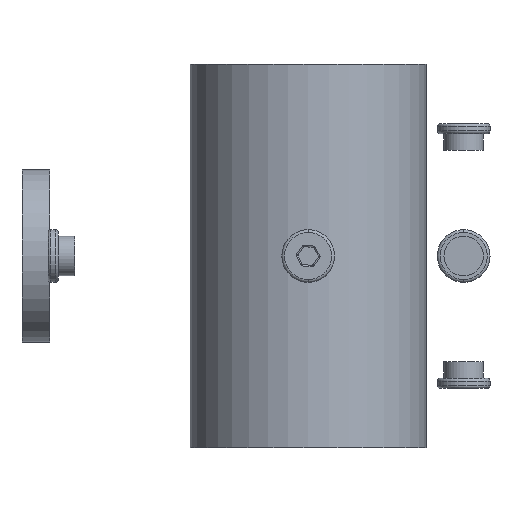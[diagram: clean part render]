
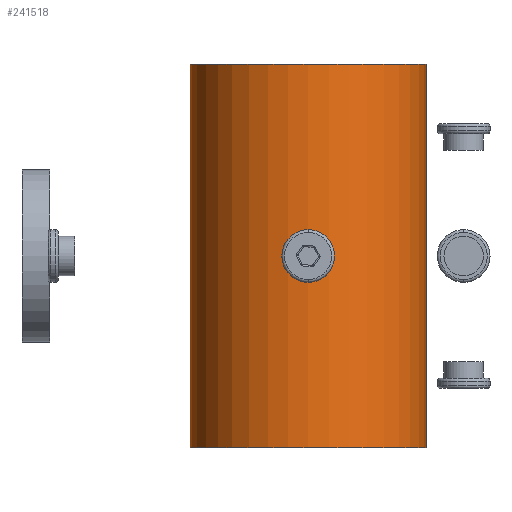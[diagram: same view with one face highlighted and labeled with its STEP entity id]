
A CAD part, front view. The second image highlights one B-rep face of the part: STEP entity #241518.
In plain terms, the highlighted cylindrical face has radius 42.5 mm (diameter 85 mm), a partial arc.
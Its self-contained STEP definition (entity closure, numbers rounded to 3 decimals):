
#237 = CARTESIAN_POINT ( 'NONE',  ( 0., 0., 134. ) ) ;
#1551 = VERTEX_POINT ( 'NONE', #163940 ) ;
#9943 = CARTESIAN_POINT ( 'NONE',  ( 0., 0., 134. ) ) ;
#12818 = AXIS2_PLACEMENT_3D ( 'NONE', #237, #262751, #238662 ) ;
#26665 = CIRCLE ( 'NONE', #158559, 42.5 ) ;
#30389 = CIRCLE ( 'NONE', #205525, 42.5 ) ;
#32508 = EDGE_CURVE ( 'NONE', #230307, #1551, #123352, .T. ) ;
#33992 = DIRECTION ( 'NONE',  ( -1., 0., 0. ) ) ;
#42615 = VERTEX_POINT ( 'NONE', #247376 ) ;
#51903 = CYLINDRICAL_SURFACE ( 'NONE', #12818, 42.5 ) ;
#52031 = EDGE_CURVE ( 'NONE', #42615, #230307, #30389, .T. ) ;
#52365 = CARTESIAN_POINT ( 'NONE',  ( 42.5, 0., -4. ) ) ;
#59479 = FACE_OUTER_BOUND ( 'NONE', #305693, .T. ) ;
#69296 = CARTESIAN_POINT ( 'NONE',  ( -42.5, 0., 134. ) ) ;
#92069 = CARTESIAN_POINT ( 'NONE',  ( 0., 0., -4. ) ) ;
#112758 = DIRECTION ( 'NONE',  ( 0., 0., -1. ) ) ;
#116140 = DIRECTION ( 'NONE',  ( -1., 0., 0. ) ) ;
#123352 = LINE ( 'NONE', #142508, #250564 ) ;
#141212 = VECTOR ( 'NONE', #112758, 1000. ) ;
#141677 = EDGE_CURVE ( 'NONE', #42615, #220670, #276028, .T. ) ;
#142508 = CARTESIAN_POINT ( 'NONE',  ( -42.5, 0., 134. ) ) ;
#158559 = AXIS2_PLACEMENT_3D ( 'NONE', #92069, #259306, #116140 ) ;
#163940 = CARTESIAN_POINT ( 'NONE',  ( -42.5, 0., -4. ) ) ;
#177283 = DIRECTION ( 'NONE',  ( 0., 0., -1. ) ) ;
#205525 = AXIS2_PLACEMENT_3D ( 'NONE', #9943, #177283, #33992 ) ;
#212499 = DIRECTION ( 'NONE',  ( 0., 0., -1. ) ) ;
#218206 = ORIENTED_EDGE ( 'NONE', *, *, #141677, .F. ) ;
#220670 = VERTEX_POINT ( 'NONE', #52365 ) ;
#222510 = ORIENTED_EDGE ( 'NONE', *, *, #32508, .T. ) ;
#225701 = ORIENTED_EDGE ( 'NONE', *, *, #237937, .F. ) ;
#230307 = VERTEX_POINT ( 'NONE', #69296 ) ;
#237937 = EDGE_CURVE ( 'NONE', #220670, #1551, #26665, .T. ) ;
#238662 = DIRECTION ( 'NONE',  ( -1., 0., 0. ) ) ;
#241518 = ADVANCED_FACE ( 'NONE', ( #59479 ), #51903, .T. ) ;
#247376 = CARTESIAN_POINT ( 'NONE',  ( 42.5, 0., 134. ) ) ;
#250564 = VECTOR ( 'NONE', #212499, 1000. ) ;
#255922 = CARTESIAN_POINT ( 'NONE',  ( 42.5, 0., 134. ) ) ;
#259306 = DIRECTION ( 'NONE',  ( 0., 0., -1. ) ) ;
#262751 = DIRECTION ( 'NONE',  ( 0., 0., -1. ) ) ;
#276028 = LINE ( 'NONE', #255922, #141212 ) ;
#279505 = ORIENTED_EDGE ( 'NONE', *, *, #52031, .T. ) ;
#305693 = EDGE_LOOP ( 'NONE', ( #218206, #279505, #222510, #225701 ) ) ;
